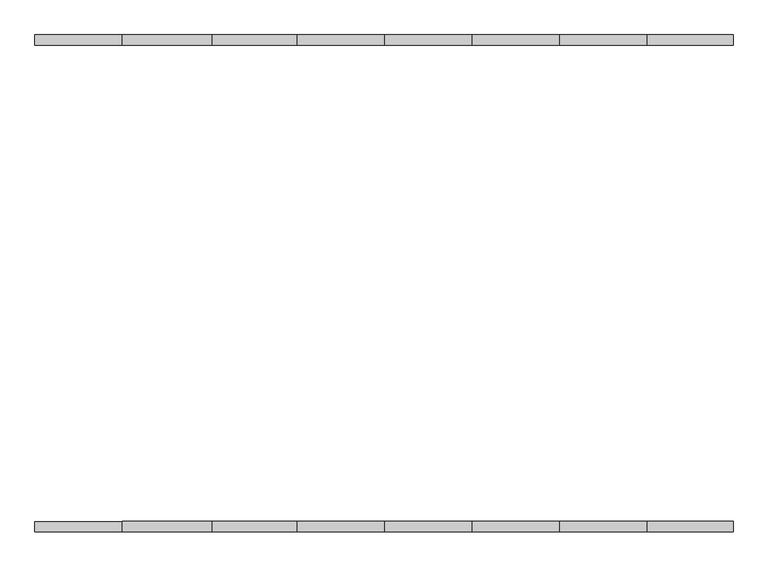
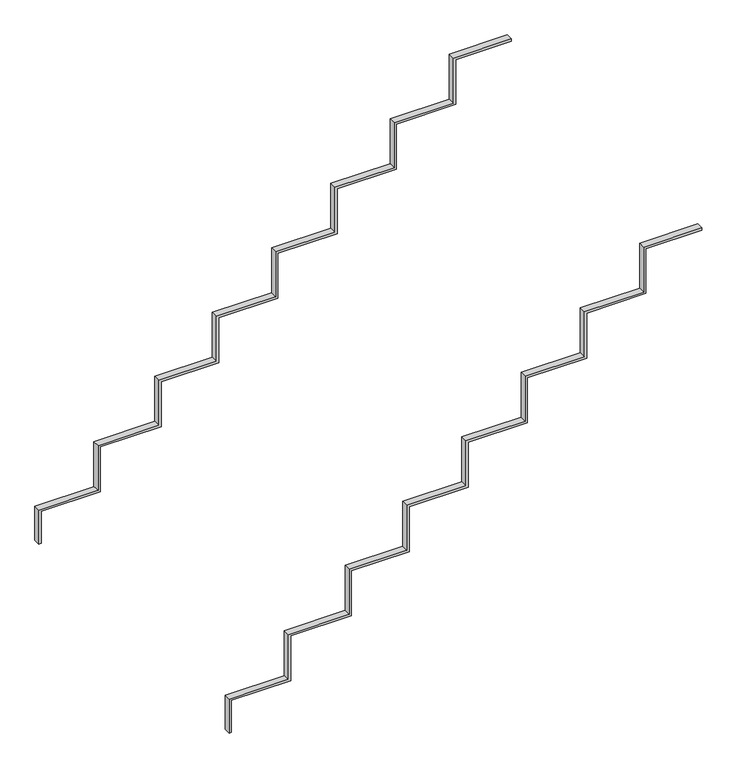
"""IFC4 building model written with IfcOpenShell, lengths in millimetres: beam geometry, Armazón estructural 7 : Armazón estructural 7."""

import ifcopenshell
import ifcopenshell.guid

model = None  # the IFC model being written
_history = None  # IfcOwnerHistory: only IFC2X3 demands one
_inside = {}  # id of a spatial element -> (the spatial element, [elements in it])
_under = {}  # id of a project, library or spatial element -> (it, [spatial elements below it])
_declared = {}  # id of a project -> (the project, [libraries it declares])
_typed = {}  # id of a type object -> (the type object, [elements of that type])
_made_of = {}  # id of a material, layer set ... -> (it, [elements and type objects made of it])


def new_model(schema):
    """Start an empty IFC model of exactly this schema.

    Asked for "IFC4X3", IfcOpenShell would pick the latest addendum, in which some entities
    have other attributes; the version numbers below select the first issue.
    IFC2X3 requires an IfcOwnerHistory on every rooted entity: one is made here for all.
    """
    global model, _history
    if schema == "IFC4X3":
        model = ifcopenshell.file(schema_version=(4, 3, 0, 0))
    else:
        model = ifcopenshell.file(schema=schema)
    _inside.clear()
    _under.clear()
    _declared.clear()
    _typed.clear()
    _made_of.clear()
    _history = None
    if model.schema == "IFC2X3":
        org = make("IfcOrganization", Name="unknown")
        user = make(
            "IfcPersonAndOrganization",
            ThePerson=make("IfcPerson", FamilyName="unknown"),
            TheOrganization=org,
        )
        app = make(
            "IfcApplication",
            ApplicationDeveloper=org,
            Version="unknown",
            ApplicationFullName="unknown",
            ApplicationIdentifier="unknown",
        )
        _history = make(
            "IfcOwnerHistory",
            OwningUser=user,
            OwningApplication=app,
            ChangeAction="ADDED",
            CreationDate=0,
        )
    return model


def make(cls, **values):
    """One entity of the class cls with the attributes given. An attribute that is None is left unset."""
    return model.create_entity(
        cls, **{name: value for name, value in values.items() if value is not None}
    )


def rooted(cls, **values):
    """An entity with a GlobalId (a new one), such as an element, a storey or a relation."""
    return make(cls, GlobalId=ifcopenshell.guid.new(), OwnerHistory=_history, **values)


def si_unit(unit_type, name, prefix=None):
    """IfcSIUnit, for example si_unit("LENGTHUNIT", "METRE", prefix="MILLI")."""
    return make("IfcSIUnit", UnitType=unit_type, Prefix=prefix, Name=name)


def assignment(units):
    """IfcUnitAssignment: the units of a project."""
    return None if units is None else make("IfcUnitAssignment", Units=units)


def point(xyz):
    """IfcCartesianPoint."""
    return None if xyz is None else make("IfcCartesianPoint", Coordinates=xyz)


def direction(xyz):
    """IfcDirection."""
    return None if xyz is None else make("IfcDirection", DirectionRatios=xyz)


def frame(location, z_axis=None, x_axis=None):
    """IfcAxis2Placement3D, a coordinate frame: its origin and axes. An axis left out is left unset."""
    return make(
        "IfcAxis2Placement3D",
        Location=point(location),
        Axis=direction(z_axis),
        RefDirection=direction(x_axis),
    )


def origin():
    """The frame at (0, 0, 0) with its axes left unset."""
    return frame((0.0, 0.0, 0.0))


def place(relative_to, where):
    """IfcLocalPlacement: puts the frame where relative to a parent placement (None: the world)."""
    return make(
        "IfcLocalPlacement", PlacementRelTo=relative_to, RelativePlacement=where
    )


def context(
    kind, dimensions, precision=None, world=None, true_north=None, identifier=None
):
    """IfcGeometricRepresentationContext, for example the 3D "Model" context."""
    return make(
        "IfcGeometricRepresentationContext",
        ContextIdentifier=identifier,
        ContextType=kind,
        CoordinateSpaceDimension=dimensions,
        Precision=precision,
        WorldCoordinateSystem=world,
        TrueNorth=true_north,
    )


def project(units=None, contexts=None):
    """IfcProject with its units and contexts."""
    return rooted(
        "IfcProject",
        Name="project",
        RepresentationContexts=contexts,
        UnitsInContext=assignment(units),
    )


def spatial(cls, under=None, at=None, **own):
    """A site, building, storey or space (cls), placed at a placement, below another one or the project."""
    s = rooted(cls, ObjectPlacement=at, **own)
    if under is not None:
        _under.setdefault(under.id(), (under, []))[1].append(s)
    return s


def polyline(points):
    """IfcPolyline through the points."""
    return make("IfcPolyline", Points=[point(p) for p in points])


def outline(outer, holes=None, kind="AREA"):
    """IfcArbitraryClosedProfileDef: a profile drawn as a closed curve; with holes, ...WithVoids."""
    if holes is None:
        return make("IfcArbitraryClosedProfileDef", ProfileType=kind, OuterCurve=outer)
    return make(
        "IfcArbitraryProfileDefWithVoids",
        ProfileType=kind,
        OuterCurve=outer,
        InnerCurves=holes,
    )


def extrude(swept, where, along, depth):
    """IfcExtrudedAreaSolid: the profile swept, set in the frame where, extruded along a direction by depth."""
    return make(
        "IfcExtrudedAreaSolid",
        SweptArea=swept,
        Position=where,
        ExtrudedDirection=direction(along),
        Depth=depth,
    )


def shape(context_of_items, identifier, shape_type, items):
    """IfcShapeRepresentation: the items that make up one representation, for example the "Body"."""
    return make(
        "IfcShapeRepresentation",
        ContextOfItems=context_of_items,
        RepresentationIdentifier=identifier,
        RepresentationType=shape_type,
        Items=items,
    )


def source(mapping_origin, context_of_items, identifier, shape_type, items):
    """IfcRepresentationMap: a shape defined once, which mapped items show again and again."""
    return make(
        "IfcRepresentationMap",
        MappingOrigin=mapping_origin,
        MappedRepresentation=shape(context_of_items, identifier, shape_type, items),
    )


def transform(
    local_origin,
    x_axis=None,
    y_axis=None,
    z_axis=None,
    scale=None,
    scale2=None,
    scale3=None,
    uniform=True,
):
    """IfcCartesianTransformationOperator3D, or its non-uniform kind. x_axis, y_axis, z_axis: its Axis1, 2, 3."""
    if uniform:
        return make(
            "IfcCartesianTransformationOperator3D",
            Axis1=direction(x_axis),
            Axis2=direction(y_axis),
            LocalOrigin=point(local_origin),
            Scale=scale,
            Axis3=direction(z_axis),
        )
    return make(
        "IfcCartesianTransformationOperator3DnonUniform",
        Axis1=direction(x_axis),
        Axis2=direction(y_axis),
        LocalOrigin=point(local_origin),
        Scale=scale,
        Axis3=direction(z_axis),
        Scale2=scale2,
        Scale3=scale3,
    )


def mapped(mapping_source, mapping_target):
    """IfcMappedItem: shows the shape of a source again, moved by a transform."""
    return make(
        "IfcMappedItem", MappingSource=mapping_source, MappingTarget=mapping_target
    )


def made_of(thing, what):
    """Note that an element or type object is made of a material, layer set ...; save() writes the relation."""
    if what is not None:
        _made_of.setdefault(what.id(), (what, []))[1].append(thing)
    return thing


def element(
    cls,
    number,
    at=None,
    inside=None,
    cuts=None,
    type_object=None,
    material=None,
    context=None,
    identifier="Body",
    shape_type=None,
    held_by="IfcProductDefinitionShape",
    body=None,
    shapes=None,
    **own,
):
    """One element of the class cls, such as IfcWall. Its Tag is "e" and its number.

    at: its placement. inside: the storey or other place that contains it. cuts: it is an
    opening in that element (IfcRelVoidsElement). A single representation is given by context,
    identifier, shape_type and body (its items); several are given by shapes. held_by: the class
    of the entity that holds the representations. save() writes the other relations.
    """
    e = rooted(cls, Tag="e%d" % number, ObjectPlacement=at, **own)
    if body is not None:
        shapes = [shape(context, identifier, shape_type, body)]
    if shapes is not None:
        e.Representation = make(held_by, Representations=shapes)
    if inside is not None:
        _inside.setdefault(inside.id(), (inside, []))[1].append(e)
    if cuts is not None:
        rooted(
            "IfcRelVoidsElement", RelatingBuildingElement=cuts, RelatedOpeningElement=e
        )
    if type_object is not None:
        _typed.setdefault(type_object.id(), (type_object, []))[1].append(e)
    return made_of(e, material)


def aggregate(whole, parts):
    """IfcRelAggregates: a whole, such as a stair, and the parts it consists of."""
    return rooted("IfcRelAggregates", RelatingObject=whole, RelatedObjects=parts)


def save(model, path):
    """Write the relations noted so far, then the file.

    IfcRelAggregates (storeys below a building ...), IfcRelContainedInSpatialStructure (elements
    in a storey), IfcRelDefinesByType, IfcRelAssociatesMaterial and IfcRelDeclares: one each for
    every whole, place, type object, material and project.
    """
    for whole, parts in _under.values():
        aggregate(whole, parts)
    for where, things in _inside.values():
        rooted(
            "IfcRelContainedInSpatialStructure",
            RelatedElements=things,
            RelatingStructure=where,
        )
    for kind, things in _typed.values():
        rooted("IfcRelDefinesByType", RelatedObjects=things, RelatingType=kind)
    for what, things in _made_of.values():
        rooted("IfcRelAssociatesMaterial", RelatedObjects=things, RelatingMaterial=what)
    for by, libraries in _declared.values():
        rooted("IfcRelDeclares", RelatingContext=by, RelatedDefinitions=libraries)
    model.write(path)


def beam_c8093c8f(model_context):
    return source(origin(), model_context, "Body", "SweptSolid", [
        extrude(outline(polyline([(4884.4, 9361.8126262), (4678.8, 9361.8126262), (4678.8, 9105.6672181), (4473.2, 9105.6672181), (4473.2, 8849.5218099), (4267.6, 8849.5218099), (4267.6, 8593.3764018), (4062.0, 8593.3764018), (4062.0, 8337.2309937), (3856.4, 8337.2309937), (3856.4, 8088.3687917), (3650.8, 8088.3687917), (3650.8, 7824.9401774), (3445.2, 7824.9401774), (3445.2, 7569.346531), (3289.6, 7569.346531), (3289.6, 7579.346531), (3435.2, 7579.346531), (3435.2, 7834.9401774), (3640.8, 7834.9401774), (3640.8, 8098.3687917), (3846.4, 8098.3687917), (3846.4, 8347.2309937), (4052.0, 8347.2309937), (4052.0, 8603.3764018), (4257.6, 8603.3764018), (4257.6, 8859.5218099), (4463.2, 8859.5218099), (4463.2, 9115.6672181), (4668.8, 9115.6672181), (4668.8, 9371.8126262), (4874.4, 9371.8126262), (4874.4, 9612.8126262), (4884.4, 9612.8126262), (4884.4, 9361.8126262)])), frame((0.0, 1496.342606, 0.0), z_axis=(0.0, 1.0, 0.0), x_axis=(0.0, 0.0, 1.0)), (0.0, 0.0, 1.0), 30.0),
        extrude(outline(polyline([(4884.4, 9361.8126262), (4678.8, 9361.8126262), (4678.8, 9105.6672181), (4473.2, 9105.6672181), (4473.2, 8849.5218099), (4267.6, 8849.5218099), (4267.6, 8593.3764018), (4062.0, 8593.3764018), (4062.0, 8337.2309937), (3856.4, 8337.2309937), (3856.4, 8088.3687917), (3650.8, 8088.3687917), (3650.8, 7824.9401774), (3445.2, 7824.9401774), (3445.2, 7569.346531), (3289.6, 7569.346531), (3289.6, 7579.346531), (3435.2, 7579.346531), (3435.2, 7834.9401774), (3640.8, 7834.9401774), (3640.8, 8098.3687917), (3846.4, 8098.3687917), (3846.4, 8347.2309937), (4052.0, 8347.2309937), (4052.0, 8603.3764018), (4257.6, 8603.3764018), (4257.6, 8859.5218099), (4463.2, 8859.5218099), (4463.2, 9115.6672181), (4668.8, 9115.6672181), (4668.8, 9371.8126262), (4874.4, 9371.8126262), (4874.4, 9612.8126262), (4884.4, 9612.8126262), (4884.4, 9361.8126262)])), frame((0.0, 2921.7500845, 0.0), z_axis=(0.0, 1.0, 0.0), x_axis=(0.0, 0.0, 1.0)), (0.0, 0.0, 1.0), 30.0),
    ])


if __name__ == "__main__":
    model = new_model("IFC4")
    model_context = context("Model", 3, world=origin())
    ifc_project = project(units=[si_unit("LENGTHUNIT", "METRE", prefix="MILLI")], contexts=[model_context])
    site = spatial("IfcSite", under=ifc_project)
    building = spatial("IfcBuilding", under=site)
    placement = place(None, origin())
    beam_shape = beam_c8093c8f(model_context)
    element("IfcBeam", 1, ObjectType="Armazón estructural 7 : Armazón estructural 7", at=placement, inside=building, context=model_context, shape_type="MappedRepresentation", body=[
        mapped(beam_shape, transform((0.0, 0.0, 0.0), x_axis=(1.0, 0.0, 0.0), y_axis=(0.0, 1.0, 0.0), z_axis=(0.0, 0.0, 1.0))),
    ])
    save(model, "model.ifc")
